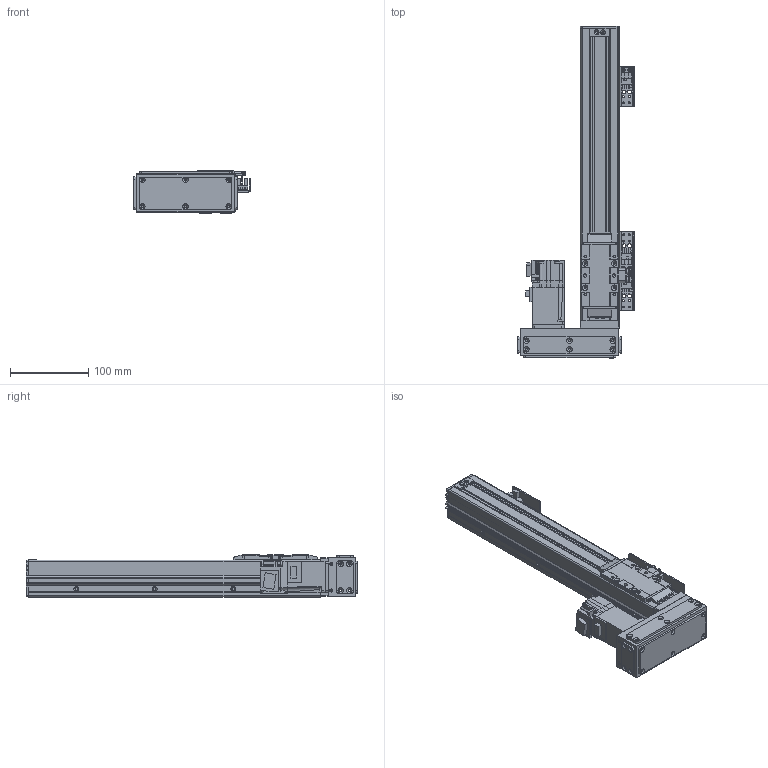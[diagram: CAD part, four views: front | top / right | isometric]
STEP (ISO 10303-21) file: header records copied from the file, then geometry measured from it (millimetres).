
FILE_DESCRIPTION(/* description */ (''),/* implementation_level */ '2;1');
FILE_NAME(/* name */ '\\192.168.0.160\disk1\HAN SHIN Master\B-설계부문\C-표준\B-2024년\BC02-표준도면\+로봇 개선표준도면\홈페이지 표준 도면\표준 승인도 폴더 - 재작업\3D\HC Type\HC50 - 재작업\L-Type\HC50-L10-N-0250-R10.stp',/* time_stamp */ '2024-11-29T11:27:39+09:00',/* author */ ('user'),/* organization */ (''),/* preprocessor_version */ 'ST-DEVELOPER v18.1',/* originating_system */ 'Autodesk Inventor 2022',/* authorisation */ '');
FILE_SCHEMA (('AUTOMOTIVE_DESIGN { 1 0 10303 214 3 1 1 }'));
Length unit declared in the file: millimetre
Products named in the file (27): HC50-L10-N-0200-R10; HC50 BASE-R1; HC50 REAR BLOCK; HR45 FRONT BLOCK; 45- BEARING COVER; SENSOR DOG BRK; HC50 SENSOR DOG; ISO 4762 - M3 x 16; HC45 UPCOVER; HC75,90 SHEET PLATE; HC45, HC65 STOPPER; MAGNET(∅10X3); HC50 REAR COVER-R3; SENSOR BRK(EE-SX674A); EE_SX674A; ESF1210 NUT; HC45 TABLE; HC75 TABLE COVER; HC45 TABLE SIDE COVER; hg-kr13_; HR45 ACRYL COVER(측면); HR45 MOTOR PLATE 100W; HC50 L MOTOR PLATE; HR45 ACRYL COVER(정면); HR45 LR BELT COVER; HR45 ACRYL COVER(상하면); HC50SIDECOVER000
Assembly tree (38 placements, depth 2):
  HC50-L10-N-0200-R10
    HC50 BASE-R1
    HC50 REAR BLOCK
    HR45 FRONT BLOCK
    45- BEARING COVER
    SENSOR BRK(EE-SX674A)  x3
    EE_SX674A  x3
    SENSOR DOG BRK
    HC50 SENSOR DOG
    ISO 4762 - M3 x 16  x2
    HC45 UPCOVER
    HC75,90 SHEET PLATE  x2
    HC45, HC65 STOPPER  x2
    MAGNET(∅10X3)  x3
    HC50 REAR COVER-R3
    ESF1210 NUT
    HC50SIDECOVER000  x2
    HC45 TABLE SIDE COVER  x2
    HC45 TABLE
    HC75 TABLE COVER
    hg-kr13_
    HR45 ACRYL COVER(측면)
    HR45 MOTOR PLATE 100W
    HC50 L MOTOR PLATE
    HR45 ACRYL COVER(정면)
    HR45 ACRYL COVER(상하면)  x2
    HR45 LR BELT COVER
Bounding box: 148.5 x 423 x 54 mm (x, y, z)
Volume: 574768.4 mm3; surface area: 369981.6 mm2
Topology: 40 solids, 40 shells, 1573 faces, 4199 edges, 2756 vertices
Faces by surface type: plane 866, cylinder 606, cone 88, bspline 9, torus 4
Full cylindrical faces by diameter (mm): 2.013 x4, 2.459 x97, 3 x2, 3.242 x20, 3.4 x32, 3.5 x44, 4 x12, 4.5 x12, 5 x14, 5.5 x2, 5.6 x2, 5.9 x2, 6 x21, 6.5 x2, 8 x1, 9 x2, 10 x4, 10.5 x1, 12 x1, 15 x3, 17 x1, 18 x1, 21 x2, 22 x4, 24 x1, 24.5 x1, 26 x1, 30 x2
Entity records: 40826 total; most frequent: CARTESIAN_POINT 7816, DIRECTION 6721, ORIENTED_EDGE 6446, EDGE_CURVE 3223, AXIS2_PLACEMENT_3D 2289, LINE 2143, VECTOR 2143, VERTEX_POINT 2139
